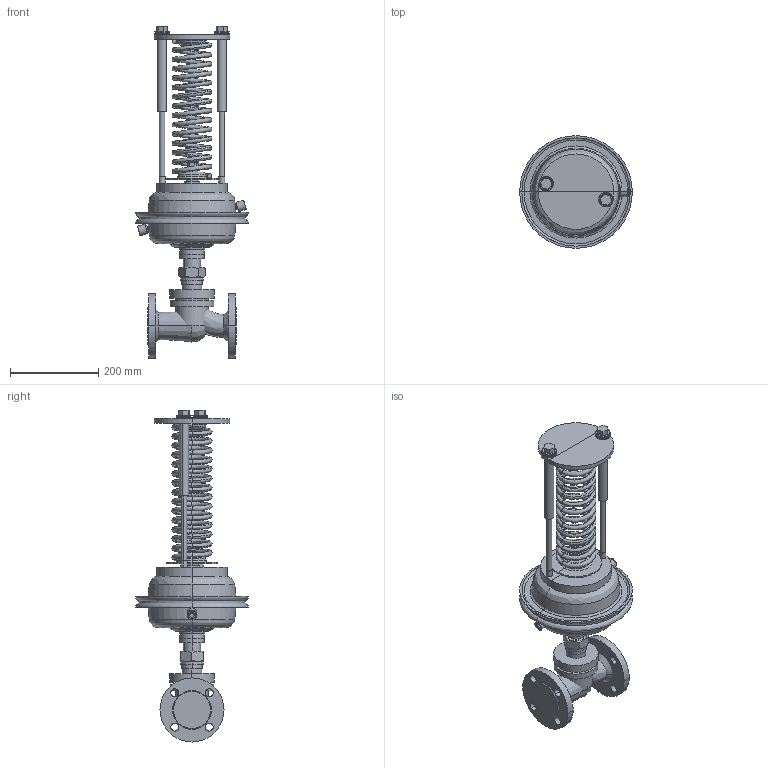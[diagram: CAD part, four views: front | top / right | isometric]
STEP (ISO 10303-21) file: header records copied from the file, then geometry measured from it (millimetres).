
FILE_DESCRIPTION(/* description */ (''),/* implementation_level */ '2;1');
FILE_NAME(/* name */ 'ETM_Регулятордавления_УРРД_НЗ_РД_DN40',/* time_stamp */ '2026-04-18T15:00:35+03:00',/* author */ (''),/* organization */ (''),/* preprocessor_version */ 'ST-DEVELOPER v20',/* originating_system */ '',/* authorisation */ '');
FILE_SCHEMA (('AP242_MANAGED_MODEL_BASED_3D_ENGINEERING_MIM_LF { 1 0 10303 442 1 1 4 }'));
Length unit declared in the file: millimetre
Products named in the file (13): TopLevelAssembly; Выдавливание; Переход; Выдавливание_
1; Переход_1; Переход_2; Переход_3; Объемная геометрия 
присоединена; Выдавливание_
2; Выдавливание_
3; Объемная геометрия 
присоединена_1; Выдавливание_
4; Пружина желтая
Assembly tree (12 placements, depth 2):
  TopLevelAssembly
    Выдавливание
    Переход
    Выдавливание_
1
    Переход_1
    Переход_2
    Переход_3
    Объемная геометрия 
присоединена
    Выдавливание_
2
    Выдавливание_
3
    Объемная геометрия 
присоединена_1
    Выдавливание_
4
    Пружина желтая
Bounding box: 255.07 x 255.07 x 751.31 mm (x, y, z)
Volume: 6639847.6 mm3; surface area: 744867 mm2
Topology: 33 solids, 33 shells, 506 faces, 1030 edges, 528 vertices
Faces by surface type: bspline 191, plane 183, cylinder 122, cone 10
Entity records: 16493 total; most frequent: CARTESIAN_POINT 5807, DIRECTION 2260, ORIENTED_EDGE 1968, EDGE_CURVE 984, AXIS2_PLACEMENT_3D 960, CIRCLE 619, VERTEX_POINT 528, EDGE_LOOP 526
